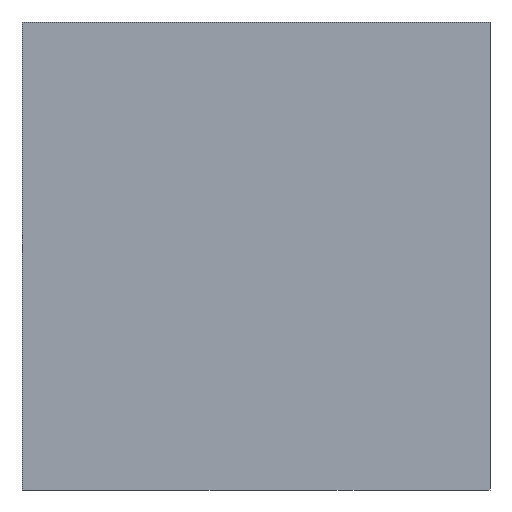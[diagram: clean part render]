
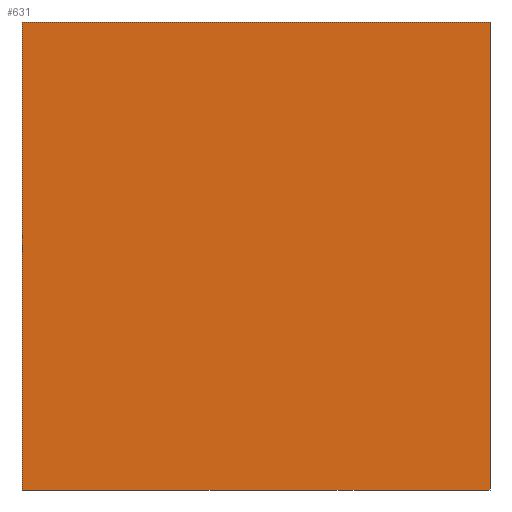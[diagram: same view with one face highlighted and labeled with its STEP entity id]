
A CAD part, left-side view. The second image highlights one B-rep face of the part: STEP entity #631.
In plain terms, the highlighted planar face has unit normal (-1, 0, 0).
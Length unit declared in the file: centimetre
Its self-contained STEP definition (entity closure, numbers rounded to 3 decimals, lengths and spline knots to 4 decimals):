
#65 = VERTEX_POINT ( 'NONE', #293 ) ;
#66 = CARTESIAN_POINT ( 'NONE',  ( 0., 1000., 1000. ) ) ;
#76 = EDGE_CURVE ( 'NONE', #328, #65, #392, .T. ) ;
#101 = CARTESIAN_POINT ( 'NONE',  ( 0., 1000., 1000. ) ) ;
#105 = EDGE_CURVE ( 'NONE', #65, #470, #110, .T. ) ;
#110 = LINE ( 'NONE', #754, #741 ) ;
#132 = CARTESIAN_POINT ( 'NONE',  ( 0., 1000., 1000. ) ) ;
#140 = VECTOR ( 'NONE', #914, 100. ) ;
#168 = DIRECTION ( 'NONE',  ( 0., -1., 0. ) ) ;
#276 = VECTOR ( 'NONE', #502, 100. ) ;
#293 = CARTESIAN_POINT ( 'NONE',  ( 0., 1000., 0. ) ) ;
#310 = AXIS2_PLACEMENT_3D ( 'NONE', #132, #324, #638 ) ;
#324 = DIRECTION ( 'NONE',  ( 1., 0., 0. ) ) ;
#328 = VERTEX_POINT ( 'NONE', #608 ) ;
#392 = LINE ( 'NONE', #101, #500 ) ;
#410 = PLANE ( 'NONE',  #310 ) ;
#470 = VERTEX_POINT ( 'NONE', #896 ) ;
#496 = ORIENTED_EDGE ( 'NONE', *, *, #76, .T. ) ;
#500 = VECTOR ( 'NONE', #916, 100. ) ;
#502 = DIRECTION ( 'NONE',  ( 0., -1., 0. ) ) ;
#534 = CARTESIAN_POINT ( 'NONE',  ( 0., 0., 1000. ) ) ;
#540 = LINE ( 'NONE', #534, #140 ) ;
#580 = ORIENTED_EDGE ( 'NONE', *, *, #732, .F. ) ;
#608 = CARTESIAN_POINT ( 'NONE',  ( 0., 1000., 1000. ) ) ;
#631 = ADVANCED_FACE ( 'NONE', ( #717 ), #410, .F. ) ;
#632 = CARTESIAN_POINT ( 'NONE',  ( 0., 0., 1000. ) ) ;
#638 = DIRECTION ( 'NONE',  ( 0., 0., -1. ) ) ;
#692 = EDGE_LOOP ( 'NONE', ( #706, #813, #580, #496 ) ) ;
#706 = ORIENTED_EDGE ( 'NONE', *, *, #105, .T. ) ;
#717 = FACE_OUTER_BOUND ( 'NONE', #692, .T. ) ;
#725 = LINE ( 'NONE', #66, #276 ) ;
#732 = EDGE_CURVE ( 'NONE', #328, #805, #725, .T. ) ;
#741 = VECTOR ( 'NONE', #168, 100. ) ;
#754 = CARTESIAN_POINT ( 'NONE',  ( 0., 1000., 0. ) ) ;
#805 = VERTEX_POINT ( 'NONE', #632 ) ;
#813 = ORIENTED_EDGE ( 'NONE', *, *, #923, .F. ) ;
#896 = CARTESIAN_POINT ( 'NONE',  ( 0., 0., 0. ) ) ;
#914 = DIRECTION ( 'NONE',  ( 0., 0., -1. ) ) ;
#916 = DIRECTION ( 'NONE',  ( 0., 0., -1. ) ) ;
#923 = EDGE_CURVE ( 'NONE', #805, #470, #540, .T. ) ;
